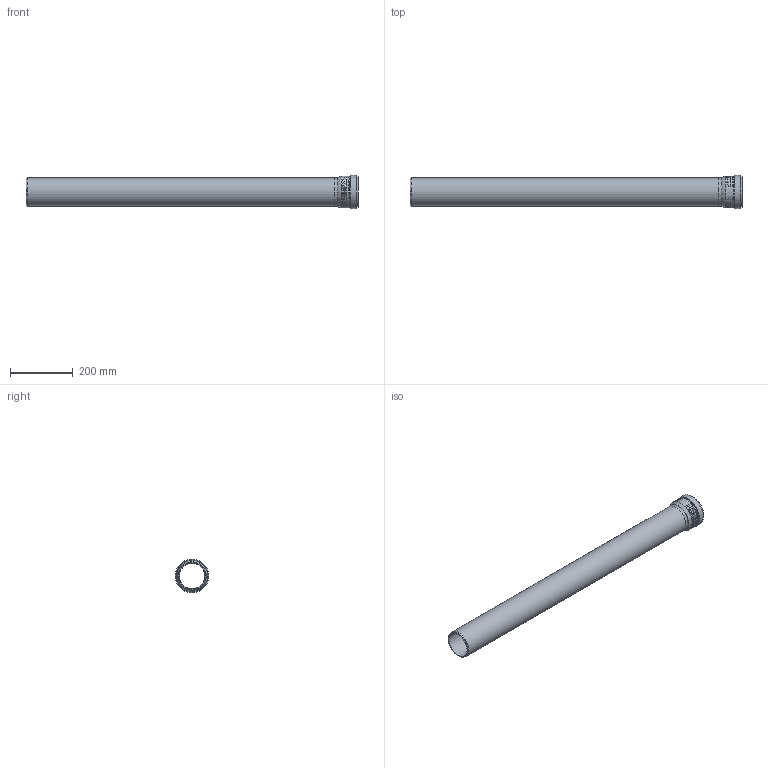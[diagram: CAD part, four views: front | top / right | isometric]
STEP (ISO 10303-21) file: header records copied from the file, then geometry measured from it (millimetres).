
FILE_DESCRIPTION(/* description */ (''),/* implementation_level */ '2;1');
FILE_NAME(/* name */ 'H:\Geberit-Teile\Export\PP_Rohr\stp\393404.stp',/* time_stamp */ '2017-02-13T16:07:23+01:00',/* author */ ('seihe2'),/* organization */ (''),/* preprocessor_version */ 'ST-DEVELOPER v15.2',/* originating_system */ 'Autodesk Inventor 2014',/* authorisation */ '');
FILE_SCHEMA (('AUTOMOTIVE_DESIGN { 1 0 10303 214 3 1 1 }'));
Length unit declared in the file: millimetre
Products named in the file (1): 393404
Bounding box: 1061 x 107 x 107 mm (x, y, z)
Volume: 1254480.7 mm3; surface area: 594592.5 mm2
Topology: 2 solids, 2 shells, 38 faces, 81 edges, 56 vertices
Faces by surface type: torus 17, cylinder 10, plane 8, cone 2, bspline 1
Full cylindrical faces by diameter (mm): 81.6 x2, 90.2 x2, 91 x1, 93 x1, 98.8 x1, 100 x1, 100.8 x1, 107 x1
Entity records: 2149 total; most frequent: CARTESIAN_POINT 1370, DIRECTION 130, ORIENTED_EDGE 124, EDGE_LOOP 69, AXIS2_PLACEMENT_3D 65, EDGE_CURVE 62, VERTEX_POINT 55, STYLED_ITEM 40
